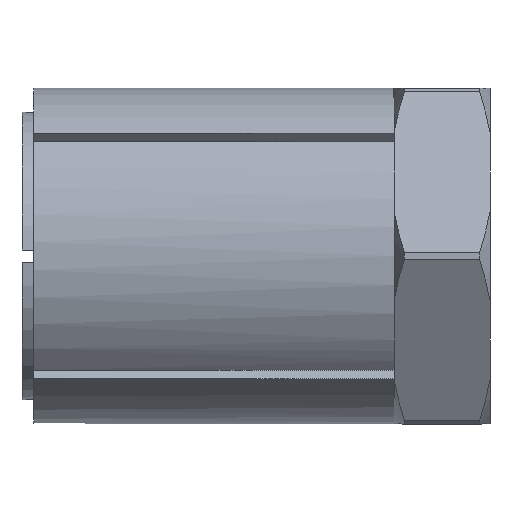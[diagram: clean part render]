
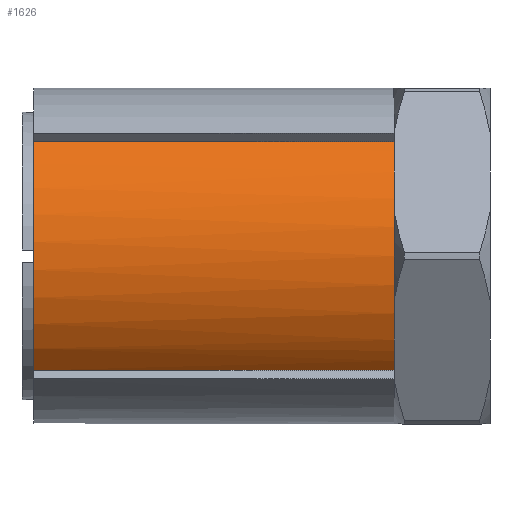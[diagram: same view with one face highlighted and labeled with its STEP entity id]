
A CAD part, front view. The second image highlights one B-rep face of the part: STEP entity #1626.
In plain terms, the highlighted cylindrical face has radius 7 mm (diameter 14 mm), a partial arc.
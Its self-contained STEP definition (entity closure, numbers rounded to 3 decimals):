
#17 = AXIS2_PLACEMENT_3D ( 'NONE', #1169, #1168, #1164 ) ;
#88 = AXIS2_PLACEMENT_3D ( 'NONE', #2234, #2236, #2237 ) ;
#89 = AXIS2_PLACEMENT_3D ( 'NONE', #2214, #2224, #2225 ) ;
#90 = AXIS2_PLACEMENT_3D ( 'NONE', #2226, #2227, #2228 ) ;
#94 = AXIS2_PLACEMENT_3D ( 'NONE', #2198, #2207, #2208 ) ;
#290 = EDGE_LOOP ( 'NONE', ( #832, #825, #822, #824, #829, #830 ) ) ;
#698 = EDGE_CURVE ( 'NONE', #1686, #1691, #2483, .T. ) ;
#705 = EDGE_CURVE ( 'NONE', #1678, #1673, #2493, .T. ) ;
#706 = EDGE_CURVE ( 'NONE', #1673, #1672, #2494, .T. ) ;
#707 = EDGE_CURVE ( 'NONE', #1690, #1691, #2487, .T. ) ;
#709 = EDGE_CURVE ( 'NONE', #1672, #1690, #2498, .T. ) ;
#711 = EDGE_CURVE ( 'NONE', #1686, #1678, #2499, .T. ) ;
#822 = ORIENTED_EDGE ( 'NONE', *, *, #698, .F. ) ;
#824 = ORIENTED_EDGE ( 'NONE', *, *, #711, .T. ) ;
#825 = ORIENTED_EDGE ( 'NONE', *, *, #707, .T. ) ;
#829 = ORIENTED_EDGE ( 'NONE', *, *, #705, .T. ) ;
#830 = ORIENTED_EDGE ( 'NONE', *, *, #706, .T. ) ;
#832 = ORIENTED_EDGE ( 'NONE', *, *, #709, .T. ) ;
#1164 = DIRECTION ( 'NONE',  ( 0., 0., 1. ) ) ;
#1168 = DIRECTION ( 'NONE',  ( -1., 0., 0. ) ) ;
#1169 = CARTESIAN_POINT ( 'NONE',  ( 0., 0., 0. ) ) ;
#1245 = CARTESIAN_POINT ( 'NONE',  ( 15., -6.062, 3.5 ) ) ;
#1246 = CARTESIAN_POINT ( 'NONE',  ( 15., -6.062, -3.5 ) ) ;
#1251 = CARTESIAN_POINT ( 'NONE',  ( 15., -5.123, -4.77 ) ) ;
#1259 = CARTESIAN_POINT ( 'NONE',  ( 0., -5.123, -4.77 ) ) ;
#1263 = CARTESIAN_POINT ( 'NONE',  ( 15., -5.123, 4.77 ) ) ;
#1264 = CARTESIAN_POINT ( 'NONE',  ( 0., -5.123, 4.77 ) ) ;
#1626 = ADVANCED_FACE ( 'NONE', ( #2724 ), #2733, .T. ) ;
#1672 = VERTEX_POINT ( 'NONE', #1245 ) ;
#1673 = VERTEX_POINT ( 'NONE', #1246 ) ;
#1678 = VERTEX_POINT ( 'NONE', #1251 ) ;
#1686 = VERTEX_POINT ( 'NONE', #1259 ) ;
#1690 = VERTEX_POINT ( 'NONE', #1263 ) ;
#1691 = VERTEX_POINT ( 'NONE', #1264 ) ;
#2198 = CARTESIAN_POINT ( 'NONE',  ( 0., 0., 0. ) ) ;
#2207 = DIRECTION ( 'NONE',  ( -1., 0., 0. ) ) ;
#2208 = DIRECTION ( 'NONE',  ( 0., 0., 1. ) ) ;
#2214 = CARTESIAN_POINT ( 'NONE',  ( 15., 0., 0. ) ) ;
#2224 = DIRECTION ( 'NONE',  ( -1., 0., 0. ) ) ;
#2225 = DIRECTION ( 'NONE',  ( 0., 0., 1. ) ) ;
#2226 = CARTESIAN_POINT ( 'NONE',  ( 15., 0., 0. ) ) ;
#2227 = DIRECTION ( 'NONE',  ( -1., 0., 0. ) ) ;
#2228 = DIRECTION ( 'NONE',  ( 0., 0., 1. ) ) ;
#2229 = CARTESIAN_POINT ( 'NONE',  ( 0., -5.123, 4.77 ) ) ;
#2230 = DIRECTION ( 'NONE',  ( -1., 0., 0. ) ) ;
#2234 = CARTESIAN_POINT ( 'NONE',  ( 15., 0., 0. ) ) ;
#2236 = DIRECTION ( 'NONE',  ( -1., 0., 0. ) ) ;
#2237 = DIRECTION ( 'NONE',  ( 0., 0., 1. ) ) ;
#2240 = CARTESIAN_POINT ( 'NONE',  ( 0., -5.123, -4.77 ) ) ;
#2241 = DIRECTION ( 'NONE',  ( 1., 0., 0. ) ) ;
#2483 = CIRCLE ( 'NONE', #94, 7. ) ;
#2487 = LINE ( 'NONE', #2229, #2491 ) ;
#2491 = VECTOR ( 'NONE', #2230, 1000. ) ;
#2493 = CIRCLE ( 'NONE', #89, 7. ) ;
#2494 = CIRCLE ( 'NONE', #90, 7. ) ;
#2498 = CIRCLE ( 'NONE', #88, 7. ) ;
#2499 = LINE ( 'NONE', #2240, #2500 ) ;
#2500 = VECTOR ( 'NONE', #2241, 1000. ) ;
#2724 = FACE_OUTER_BOUND ( 'NONE', #290, .T. ) ;
#2733 = CYLINDRICAL_SURFACE ( 'NONE', #17, 7. ) ;
